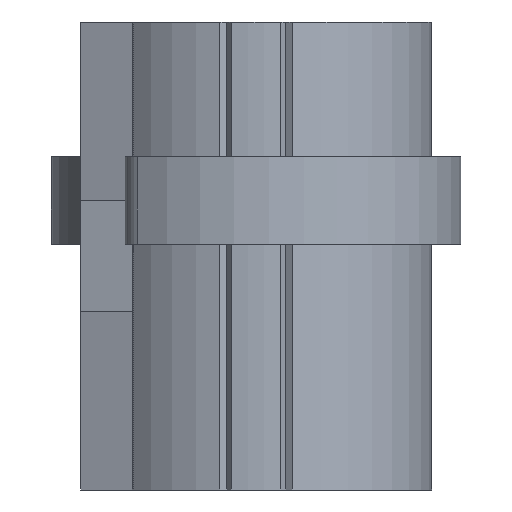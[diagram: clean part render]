
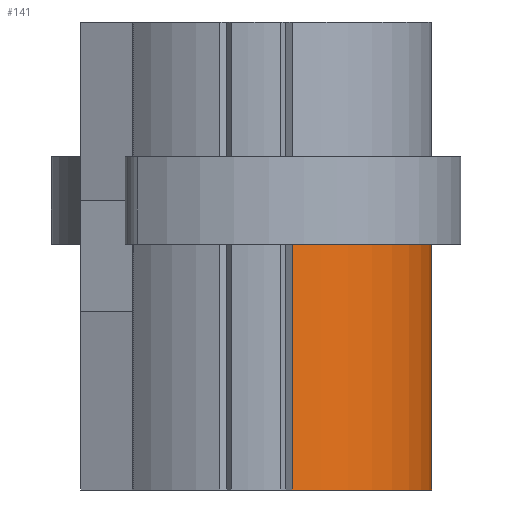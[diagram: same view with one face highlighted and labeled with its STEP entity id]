
A CAD part, front view. The second image highlights one B-rep face of the part: STEP entity #141.
In plain terms, the highlighted cylindrical face has radius 3 mm (diameter 6 mm), a partial arc.
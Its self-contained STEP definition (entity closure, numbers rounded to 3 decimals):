
#49 = EDGE_CURVE ( 'NONE', #50, #51, #794, .T. ) ;
#50 = VERTEX_POINT ( 'NONE', #790 ) ;
#51 = VERTEX_POINT ( 'NONE', #789 ) ;
#141 = ADVANCED_FACE ( 'NONE', ( #952 ), #950, .T. ) ;
#142 = EDGE_LOOP ( 'NONE', ( #143, #147, #149, #150 ) ) ;
#143 = ORIENTED_EDGE ( 'NONE', *, *, #144, .F. ) ;
#144 = EDGE_CURVE ( 'NONE', #145, #146, #951, .T. ) ;
#145 = VERTEX_POINT ( 'NONE', #942 ) ;
#146 = VERTEX_POINT ( 'NONE', #941 ) ;
#147 = ORIENTED_EDGE ( 'NONE', *, *, #148, .F. ) ;
#148 = EDGE_CURVE ( 'NONE', #50, #145, #940, .T. ) ;
#149 = ORIENTED_EDGE ( 'NONE', *, *, #49, .T. ) ;
#150 = ORIENTED_EDGE ( 'NONE', *, *, #151, .T. ) ;
#151 = EDGE_CURVE ( 'NONE', #51, #146, #935, .T. ) ;
#789 = CARTESIAN_POINT ( 'NONE',  ( 0.619, -6.435, -4. ) ) ;
#790 = CARTESIAN_POINT ( 'NONE',  ( 0.619, -6.435, 0.2 ) ) ;
#791 = DIRECTION ( 'NONE',  ( 0., 0., -1. ) ) ;
#792 = VECTOR ( 'NONE', #791, 1000. ) ;
#793 = CARTESIAN_POINT ( 'NONE',  ( 0.619, -6.435, 4. ) ) ;
#794 = LINE ( 'NONE', #793, #792 ) ;
#931 = DIRECTION ( 'NONE',  ( 1., 0., 0. ) ) ;
#932 = DIRECTION ( 'NONE',  ( 0., 0., 1. ) ) ;
#933 = CARTESIAN_POINT ( 'NONE',  ( 0., -3.5, -4. ) ) ;
#934 = AXIS2_PLACEMENT_3D ( 'NONE', #933, #932, #931 ) ;
#935 = CIRCLE ( 'NONE', #934, 3. ) ;
#936 = DIRECTION ( 'NONE',  ( -1., 0., 0. ) ) ;
#937 = DIRECTION ( 'NONE',  ( 0., 0., 1. ) ) ;
#938 = CARTESIAN_POINT ( 'NONE',  ( 0., -3.5, 0.2 ) ) ;
#939 = AXIS2_PLACEMENT_3D ( 'NONE', #938, #937, #936 ) ;
#940 = CIRCLE ( 'NONE', #939, 3. ) ;
#941 = CARTESIAN_POINT ( 'NONE',  ( 3., -3.5, -4. ) ) ;
#942 = CARTESIAN_POINT ( 'NONE',  ( 3., -3.5, 0.2 ) ) ;
#943 = DIRECTION ( 'NONE',  ( 0., 0., -1. ) ) ;
#944 = VECTOR ( 'NONE', #943, 1000. ) ;
#945 = CARTESIAN_POINT ( 'NONE',  ( 3., -3.5, 4. ) ) ;
#946 = DIRECTION ( 'NONE',  ( -1., 0., 0. ) ) ;
#947 = DIRECTION ( 'NONE',  ( 0., 0., -1. ) ) ;
#948 = CARTESIAN_POINT ( 'NONE',  ( 0., -3.5, 4. ) ) ;
#949 = AXIS2_PLACEMENT_3D ( 'NONE', #948, #947, #946 ) ;
#950 = CYLINDRICAL_SURFACE ( 'NONE', #949, 3. ) ;
#951 = LINE ( 'NONE', #945, #944 ) ;
#952 = FACE_OUTER_BOUND ( 'NONE', #142, .T. ) ;
